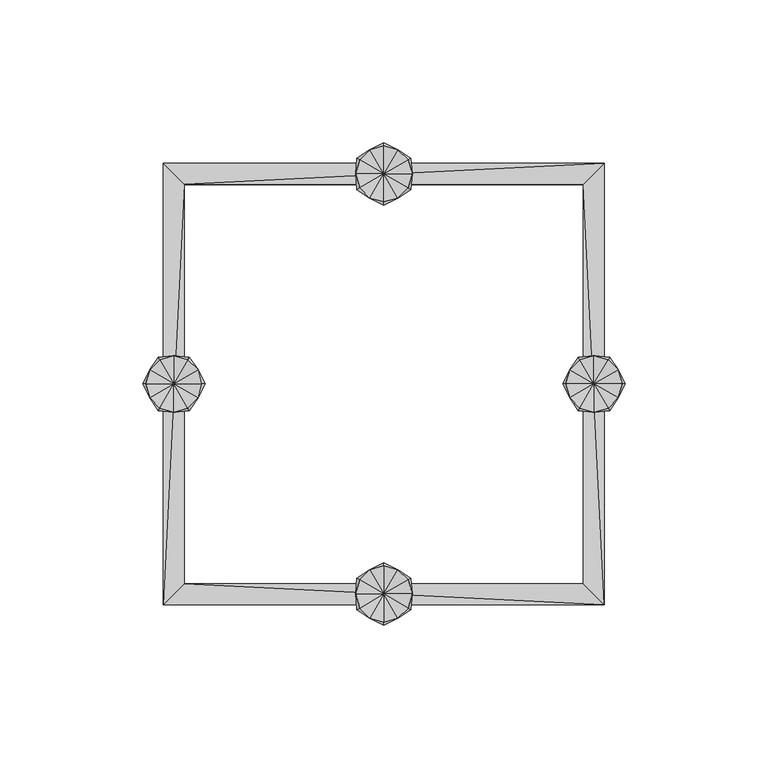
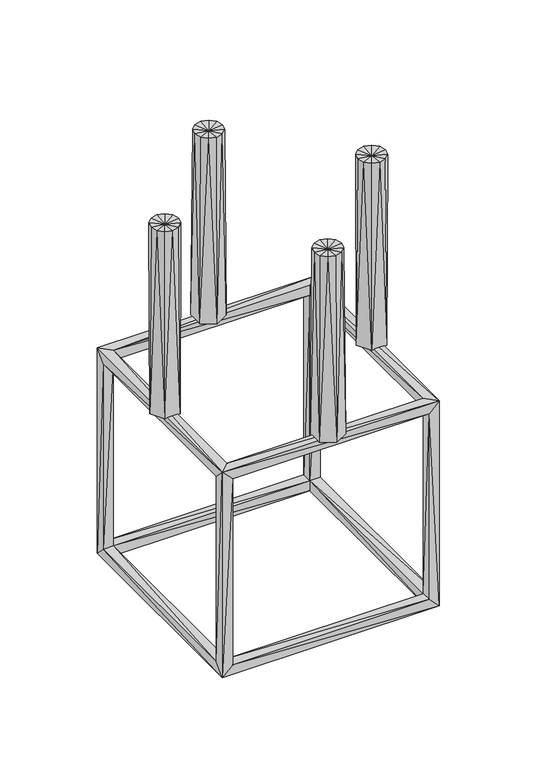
"""IFC4 building model written with IfcOpenShell, lengths in millimetres: geographic element geometry, Enscape AssetDefinition - Candle Holder : Enscape AssetDefinition - Candle Holder."""

from ifc_helpers import new_model, si_unit, origin, place, context, project, spatial, faceted_brep, source, transform, mapped, element, save


def geographic_element_d3b9378c(model_context):
    return source(origin(), model_context, "Body", "Brep", [
        faceted_brep([(-77.2407204, 77.2407204, 154.4814408), (-69.8844641, 69.8844641, 154.4814408), (77.2407204, 77.2407204, 154.4814408), (69.8844641, 69.8844641, 154.4814408), (69.8844641, 69.8844641, 147.1251845), (-77.2407204, -77.2407204, 154.4814408), (-69.8844641, 69.8844641, 147.1251845), (-69.8844641, -69.8844641, 147.1251845), (-69.8844641, -69.8844641, 154.4814408), (77.2407204, -77.2407204, 154.4814408), (69.8844641, -69.8844641, 154.4814408), (69.8844641, -69.8844641, 147.1251845), (77.2407204, -69.8844641, 147.1251845), (77.2407204, 69.8844641, 147.1251845), (77.2407204, -77.2407204, 0.0), (69.8844641, -77.2407204, 147.1251845), (77.2407204, -69.8844641, 7.356259), (69.8844641, 69.8844641, 7.356259), (69.8844641, 77.2407204, 147.1251845), (69.8844641, 77.2407204, 7.356259), (-69.8844641, 77.2407204, 147.1251845), (77.2407204, 77.2407204, 0.0), (-69.8844641, 77.2407204, 7.356259), (-77.2407204, 77.2407204, 0.0), (-69.8844641, 69.8844641, 7.356259), (-77.2407204, 69.8844641, 147.1251845), (-77.2407204, -69.8844641, 147.1251845), (-77.2407204, -77.2407204, 0.0), (-77.2407204, -69.8844641, 7.356259), (-69.8844641, -77.2407204, 147.1251845), (-77.2407204, 69.8844641, 7.356259), (-69.8844641, -69.8844641, 7.356259), (-69.8844641, -69.8844641, 0.0), (-69.8844641, -77.2407204, 7.356259), (69.8844641, -77.2407204, 7.356259), (69.8844641, -69.8844641, 7.356259), (-69.8844641, 69.8844641, 0.0), (69.8844641, 69.8844641, 0.0), (77.2407204, 69.8844641, 7.356259), (69.8844641, -69.8844641, 0.0)], [[[0, 1, 2]], [[3, 1, 4]], [[0, 5, 1]], [[6, 1, 7]], [[2, 1, 3]], [[4, 1, 6]], [[1, 5, 8]], [[7, 1, 8]], [[2, 3, 9]], [[9, 3, 10]], [[4, 10, 3]], [[11, 7, 10]], [[11, 10, 4]], [[8, 9, 10]], [[10, 7, 8]], [[5, 9, 8]], [[12, 13, 9]], [[9, 14, 12]], [[9, 5, 15]], [[9, 13, 2]], [[15, 14, 9]], [[11, 4, 12]], [[12, 16, 11]], [[12, 4, 13]], [[12, 14, 16]], [[4, 17, 13]], [[4, 6, 18]], [[19, 4, 18]], [[17, 4, 19]], [[18, 20, 2]], [[2, 21, 18]], [[18, 21, 19]], [[18, 6, 20]], [[19, 22, 17]], [[21, 23, 19]], [[19, 23, 22]], [[23, 0, 22]], [[17, 22, 24]], [[6, 22, 20]], [[6, 24, 22]], [[22, 0, 20]], [[2, 20, 0]], [[25, 5, 0]], [[23, 25, 0]], [[26, 5, 25]], [[27, 5, 28]], [[27, 29, 5]], [[28, 5, 26]], [[15, 5, 29]], [[30, 25, 23]], [[6, 26, 25]], [[30, 6, 25]], [[7, 26, 6]], [[26, 7, 28]], [[24, 6, 30]], [[28, 30, 27]], [[28, 24, 30]], [[27, 30, 23]], [[31, 24, 28]], [[28, 7, 31]], [[7, 29, 31]], [[29, 7, 15]], [[15, 7, 11]], [[31, 32, 24]], [[33, 34, 31]], [[31, 29, 33]], [[31, 34, 35]], [[35, 32, 31]], [[34, 14, 15]], [[34, 33, 14]], [[15, 35, 34]], [[33, 29, 27]], [[14, 33, 27]], [[27, 32, 14]], [[23, 36, 27]], [[27, 36, 32]], [[23, 21, 36]], [[37, 24, 36]], [[24, 32, 36]], [[36, 21, 37]], [[21, 14, 37]], [[38, 21, 13]], [[38, 14, 21]], [[13, 21, 2]], [[17, 24, 37]], [[37, 14, 39]], [[39, 17, 37]], [[35, 16, 17]], [[35, 17, 39]], [[17, 16, 38]], [[13, 17, 38]], [[16, 14, 38]], [[14, 32, 39]], [[39, 32, 35]], [[11, 35, 15]], [[11, 16, 35]]]),
        faceted_brep([(-9.4395522, -68.1130737, 154.4814408), (-9.8441457, -73.5625923, 294.2503691), (-8.5251685, -68.6405227, 294.2503691), (0.0, -73.5625923, 293.2241559), (-8.5251685, -78.4846693, 294.2503691), (-9.4395522, -79.0121108, 154.4814408), (-4.9220729, -65.0374293, 294.2503691), (0.0, -73.5625923, 154.4814408), (0.0, -62.662825, 154.4814408), (0.0, -84.4623595, 154.4814408), (-4.9220729, -82.0877627, 294.2503691), (0.0, -83.4067389, 294.2503691), (4.9220729, -82.0877627, 294.2503691), (9.4395522, -79.0121108, 154.4814408), (9.4395522, -68.1130737, 154.4814408), (9.8441457, -73.5625923, 294.2503691), (8.5251685, -78.4846693, 294.2503691), (8.5251685, -68.6405227, 294.2503691), (4.9220729, -65.0374293, 294.2503691), (0.0, -63.7184456, 294.2503691)], [[[0, 1, 2]], [[2, 1, 3]], [[1, 4, 3]], [[1, 0, 5]], [[1, 5, 4]], [[6, 2, 3]], [[6, 0, 2]], [[7, 5, 0]], [[7, 0, 8]], [[6, 8, 0]], [[7, 9, 5]], [[10, 4, 5]], [[10, 5, 9]], [[4, 10, 3]], [[10, 9, 11]], [[10, 11, 3]], [[9, 12, 11]], [[7, 13, 9]], [[12, 9, 13]], [[7, 8, 14]], [[7, 14, 13]], [[13, 15, 16]], [[15, 13, 14]], [[12, 13, 16]], [[12, 16, 3]], [[11, 12, 3]], [[16, 15, 3]], [[15, 17, 3]], [[15, 14, 17]], [[14, 18, 17]], [[18, 14, 8]], [[17, 18, 3]], [[19, 6, 3]], [[18, 19, 3]], [[18, 8, 19]], [[8, 6, 19]]]),
        faceted_brep([(4.9220729, 82.0877627, 294.2503691), (0.0, 84.4623595, 154.4814408), (0.0, 83.4067389, 294.2503691), (-9.4395522, 79.0121108, 154.4814408), (0.0, 73.5625923, 154.4814408), (-4.9220729, 82.0877627, 294.2503691), (9.4395522, 79.0121108, 154.4814408), (0.0, 73.5625923, 293.2241559), (8.5251685, 78.4846693, 294.2503691), (9.4395522, 68.1130737, 154.4814408), (9.8441457, 73.5625923, 294.2503691), (8.5251685, 68.6405227, 294.2503691), (4.9220729, 65.0374293, 294.2503691), (0.0, 62.662825, 154.4814408), (0.0, 63.7184456, 294.2503691), (-9.4395522, 68.1130737, 154.4814408), (-4.9220729, 65.0374293, 294.2503691), (-8.5251685, 68.6405227, 294.2503691), (-9.8441457, 73.5625923, 294.2503691), (-8.5251685, 78.4846693, 294.2503691)], [[[0, 1, 2]], [[3, 1, 4]], [[1, 5, 2]], [[1, 6, 4]], [[0, 6, 1]], [[5, 1, 3]], [[7, 0, 2]], [[7, 2, 5]], [[7, 8, 0]], [[0, 8, 6]], [[6, 9, 4]], [[10, 6, 8]], [[10, 9, 6]], [[7, 10, 8]], [[7, 11, 10]], [[10, 11, 9]], [[12, 9, 11]], [[9, 13, 4]], [[12, 13, 9]], [[7, 12, 11]], [[7, 14, 12]], [[12, 14, 13]], [[13, 15, 4]], [[16, 13, 14]], [[16, 15, 13]], [[7, 16, 14]], [[7, 17, 16]], [[16, 17, 15]], [[15, 3, 4]], [[18, 15, 17]], [[18, 3, 15]], [[7, 18, 17]], [[7, 19, 18]], [[18, 19, 3]], [[5, 3, 19]], [[7, 5, 19]]]),
        faceted_brep([(68.1130737, -9.4395522, 154.4814408), (73.5625923, -9.8441457, 294.2503691), (68.6405227, -8.5251685, 294.2503691), (73.5625923, 0.0, 293.2241559), (78.4846693, -8.5251685, 294.2503691), (79.0121108, -9.4395522, 154.4814408), (65.0374293, -4.9220729, 294.2503691), (73.5625923, 0.0, 154.4814408), (62.662825, 0.0, 154.4814408), (84.4623595, 0.0, 154.4814408), (82.0877627, -4.9220729, 294.2503691), (83.4067389, 0.0, 294.2503691), (82.0877627, 4.9220729, 294.2503691), (79.0121108, 9.4395522, 154.4814408), (68.1130737, 9.4395522, 154.4814408), (73.5625923, 9.8441457, 294.2503691), (78.4846693, 8.5251685, 294.2503691), (68.6405227, 8.5251685, 294.2503691), (65.0374293, 4.9220729, 294.2503691), (63.7184456, 0.0, 294.2503691)], [[[0, 1, 2]], [[2, 1, 3]], [[1, 4, 3]], [[1, 0, 5]], [[1, 5, 4]], [[6, 2, 3]], [[6, 0, 2]], [[7, 5, 0]], [[7, 0, 8]], [[6, 8, 0]], [[7, 9, 5]], [[10, 4, 5]], [[10, 5, 9]], [[4, 10, 3]], [[10, 9, 11]], [[10, 11, 3]], [[9, 12, 11]], [[7, 13, 9]], [[12, 9, 13]], [[7, 8, 14]], [[7, 14, 13]], [[13, 15, 16]], [[15, 13, 14]], [[12, 13, 16]], [[12, 16, 3]], [[11, 12, 3]], [[16, 15, 3]], [[15, 17, 3]], [[15, 14, 17]], [[14, 18, 17]], [[18, 14, 8]], [[17, 18, 3]], [[19, 6, 3]], [[18, 19, 3]], [[18, 8, 19]], [[8, 6, 19]]]),
        faceted_brep([(-82.0877627, 4.9220729, 294.2503691), (-84.4623595, 0.0, 154.4814408), (-83.4067389, 0.0, 294.2503691), (-79.0121108, -9.4395522, 154.4814408), (-73.5625923, 0.0, 154.4814408), (-82.0877627, -4.9220729, 294.2503691), (-79.0121108, 9.4395522, 154.4814408), (-73.5625923, 0.0, 293.2241559), (-78.4846693, 8.5251685, 294.2503691), (-68.1130737, 9.4395522, 154.4814408), (-73.5625923, 9.8441457, 294.2503691), (-68.6405227, 8.5251685, 294.2503691), (-65.0374293, 4.9220729, 294.2503691), (-62.662825, 0.0, 154.4814408), (-63.7184456, 0.0, 294.2503691), (-68.1130737, -9.4395522, 154.4814408), (-65.0374293, -4.9220729, 294.2503691), (-68.6405227, -8.5251685, 294.2503691), (-73.5625923, -9.8441457, 294.2503691), (-78.4846693, -8.5251685, 294.2503691)], [[[0, 1, 2]], [[3, 1, 4]], [[1, 5, 2]], [[1, 6, 4]], [[0, 6, 1]], [[5, 1, 3]], [[7, 0, 2]], [[7, 2, 5]], [[7, 8, 0]], [[0, 8, 6]], [[6, 9, 4]], [[10, 6, 8]], [[10, 9, 6]], [[7, 10, 8]], [[7, 11, 10]], [[10, 11, 9]], [[12, 9, 11]], [[9, 13, 4]], [[12, 13, 9]], [[7, 12, 11]], [[7, 14, 12]], [[12, 14, 13]], [[13, 15, 4]], [[16, 13, 14]], [[16, 15, 13]], [[7, 16, 14]], [[7, 17, 16]], [[16, 17, 15]], [[15, 3, 4]], [[18, 15, 17]], [[18, 3, 15]], [[7, 18, 17]], [[7, 19, 18]], [[18, 19, 3]], [[5, 3, 19]], [[7, 5, 19]]]),
    ])


if __name__ == "__main__":
    model = new_model("IFC4")
    model_context = context("Model", 3, world=origin())
    ifc_project = project(units=[si_unit("LENGTHUNIT", "METRE", prefix="MILLI")], contexts=[model_context])
    site = spatial("IfcSite", under=ifc_project)
    building = spatial("IfcBuilding", under=site)
    placement = place(None, origin())
    geographic_element_shape = geographic_element_d3b9378c(model_context)
    element("IfcGeographicElement", 1, ObjectType="Enscape AssetDefinition - Candle Holder : Enscape AssetDefinition - Candle Holder", at=placement, inside=building, context=model_context, shape_type="MappedRepresentation", body=[
        mapped(geographic_element_shape, transform((0.0, 0.0, 0.0), x_axis=(1.0, 0.0, 0.0), y_axis=(0.0, 1.0, 0.0), z_axis=(0.0, 0.0, 1.0))),
    ])
    save(model, "model.ifc")
